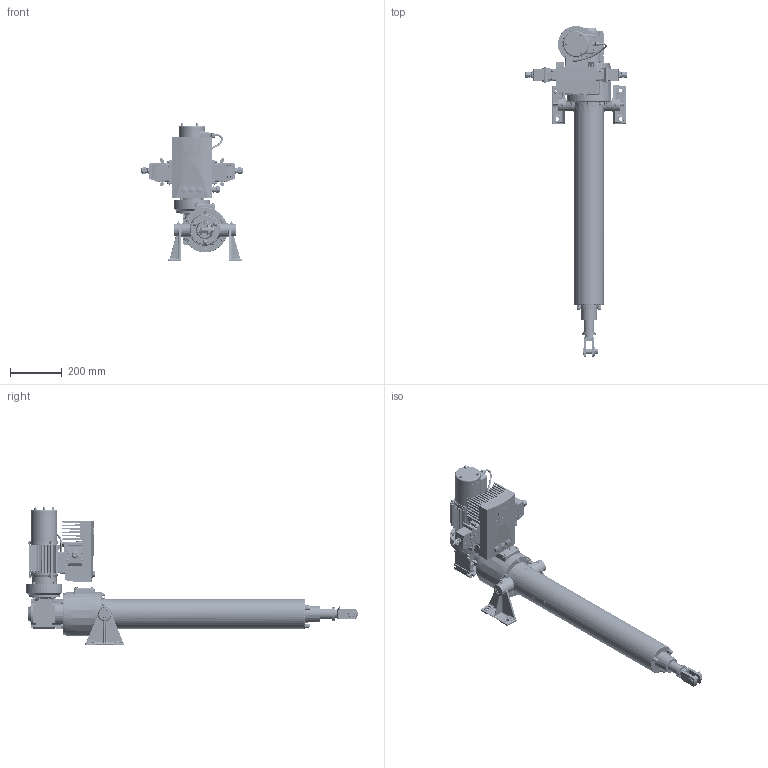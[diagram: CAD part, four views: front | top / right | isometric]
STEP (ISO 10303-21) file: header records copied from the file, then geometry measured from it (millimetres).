
FILE_DESCRIPTION( ( '153-599-4' ), '1' );
FILE_NAME( 'C:/daten/bearbeitung katalogbilder/RBs rendern/austausch pomplun/mit identnr/T1T5-RM-0600-160-245-4.stp', 'Unknown', ( 'Christoph Hahmann' ), ( 'RACO-ELEKTRO-MASCHINEN GmbH' ), 'PSStep 17.0.49', 'Solid Edge ST 7', ' ' );
FILE_SCHEMA( ( 'AUTOMOTIVE_DESIGN { 1 0 10303 214 1 1 1 1 }' ) );
Length unit declared in the file: millimetre
Products named in the file (18): Assem1; 03.01-05; 02.14-05-0600; 01.15-05-0600; 63G4-142-000-3 mit Adapter; 02.01-05 kpl; 01.01-05-Gabelkopf; 03.65-05 kpl; 10.02-04-08 105-983-12; Gehäuse A2- CAN; 8,4-100-528-6; 8-100-226-0; 8x25-100-971-0; 04.01-05-7-130; Kabel zum Motor 63G4; 148-516-4; BG1-155-449-2-kpl; 157-713-1-3
Assembly tree (38 placements, depth 2):
  Assem1
    03.01-05
    02.14-05-0600
    01.15-05-0600
    63G4-142-000-3 mit Adapter
    02.01-05 kpl
    01.01-05-Gabelkopf
    03.65-05 kpl
    10.02-04-08 105-983-12
    Gehäuse A2- CAN
    8,4-100-528-6  x8
    8-100-226-0  x8
    8x25-100-971-0  x8
    04.01-05-7-130
    Kabel zum Motor 63G4
    148-516-4
    BG1-155-449-2-kpl
    157-713-1-3
Bounding box: 392.49 x 1282.98 x 533.5 mm (x, y, z)
Surface area: 1954488.7 mm2 (no closed solid volume)
Topology: 0 solids, 10285 shells, 10302 faces, 51213 edges, 50079 vertices
Faces by surface type: plane 5228, cylinder 2756, bspline 819, cone 809, torus 366, sphere 272, extrusion 51, revolution 1
Full cylindrical faces by diameter (mm): 1.6 x2, 2 x1, 2.6 x1, 3 x31, 3.141 x14, 3.242 x22, 4 x39, 4.134 x3, 4.188 x6, 4.4 x8, 4.5 x14, 4.8 x9, 4.917 x1, 5 x38, 5.3 x3, 5.5 x13, 5.7 x11, 6 x1, 6.39 x8, 6.4 x10, 6.47 x8, 6.917 x2, 7 x15, 7.5 x3, 7.6 x8, 8 x32, 8.15 x1, 8.2 x1, 8.376 x8, 8.4 x10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
Entity records: 755038 total; most frequent: CARTESIAN_POINT 303833, DIRECTION 78646, VERTEX_POINT 49023, ORIENTED_EDGE 48952, EDGE_CURVE 48952, AXIS2_PLACEMENT_3D 26544, VECTOR 25557, LINE 25506
